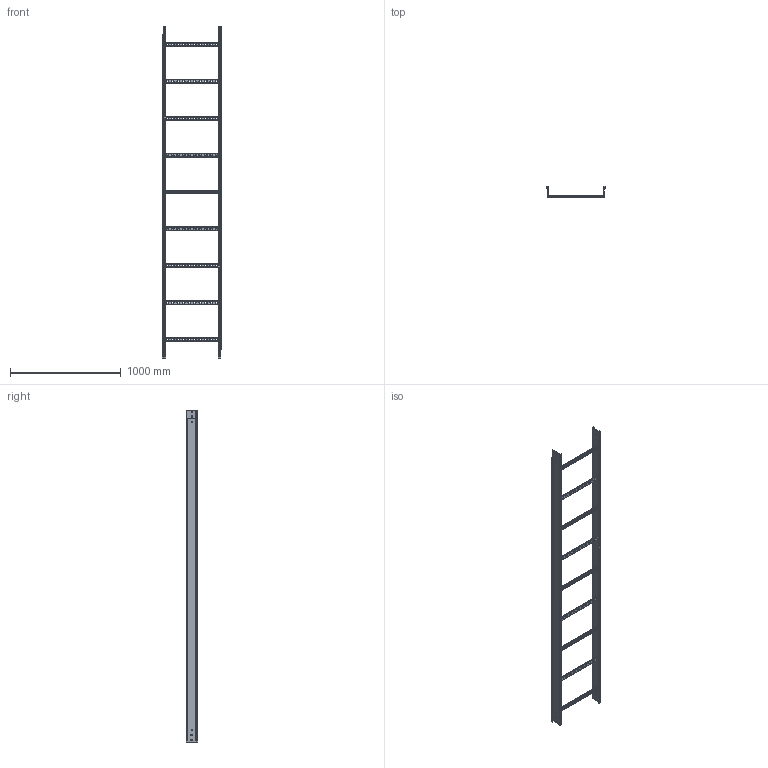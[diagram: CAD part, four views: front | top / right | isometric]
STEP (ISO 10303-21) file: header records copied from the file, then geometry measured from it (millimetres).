
FILE_DESCRIPTION (( 'STEP AP203' ), '1' );
FILE_NAME ('FE trav35 H60-75-100 p333 500x100.step', '2023-07-28T15:28:44', ( '' ), ( '' ), 'SwSTEP 2.0', 'SolidWorks 2022', '' );
FILE_SCHEMA (( 'CONFIG_CONTROL_DESIGN' ));
Length unit declared in the file: millimetre
Products named in the file (3): FE trav35 H60-75-100 p333 500x100; FE_MONTANTE_100x2; FE_RA35_500
Assembly tree (11 placements, depth 2):
  FE trav35 H60-75-100 p333 500x100
    FE_MONTANTE_100x2  x2
    FE_RA35_500  x9
Bounding box: 534 x 102 x 3000 mm (x, y, z)
Volume: 2195513.3 mm3; surface area: 2402763.6 mm2
Topology: 11 solids, 11 shells, 958 faces, 2518 edges, 1582 vertices
Faces by surface type: plane 548, cylinder 406, bspline 4
Entity records: 6487 total; most frequent: CARTESIAN_POINT 1405, DIRECTION 979, ORIENTED_EDGE 936, EDGE_CURVE 468, AXIS2_PLACEMENT_3D 346, VERTEX_POINT 301, LINE 287, VECTOR 287
